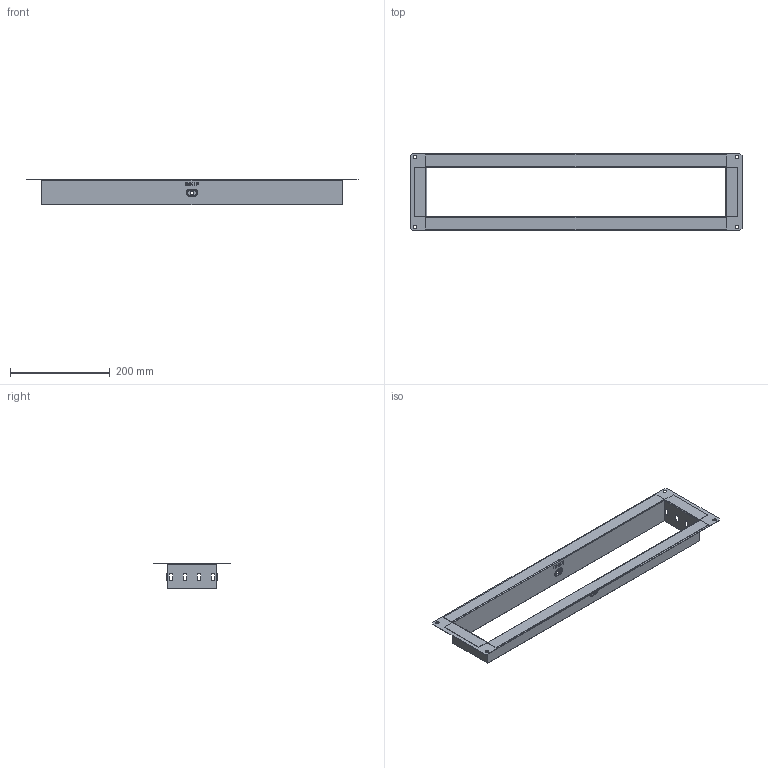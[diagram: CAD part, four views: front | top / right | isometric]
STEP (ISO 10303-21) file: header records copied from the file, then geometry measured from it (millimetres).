
FILE_DESCRIPTION (( 'STEP AP203' ), '1' );
FILE_NAME ('f100600_捘.STEP', '2020-01-23T12:32:41', ( '' ), ( '' ), 'SwSTEP 2.0', 'SolidWorks 2016', '' );
FILE_SCHEMA (( 'CONFIG_CONTROL_DESIGN' ));
Length unit declared in the file: millimetre
Products named in the file (9): f100300_3; f100600_捘; f100600_1; f50600_2
Assembly tree (5 placements, depth 2):
  f100600_捘
    f100600_1
    f50600_2  x2
    f100300_3  x2
  f100600_1
  f50600_2
  f50600_2
  f100300_3
Bounding box: 665 x 155 x 51.5 mm (x, y, z)
Volume: 116682.4 mm3; surface area: 297200.9 mm2
Topology: 5 solids, 5 shells, 326 faces, 852 edges, 552 vertices
Faces by surface type: plane 220, cylinder 72, bspline 18, torus 16
Entity records: 6612 total; most frequent: CARTESIAN_POINT 1418, ORIENTED_EDGE 912, DIRECTION 878, EDGE_CURVE 456, VECTOR 346, LINE 346, VERTEX_POINT 296, AXIS2_PLACEMENT_3D 266
